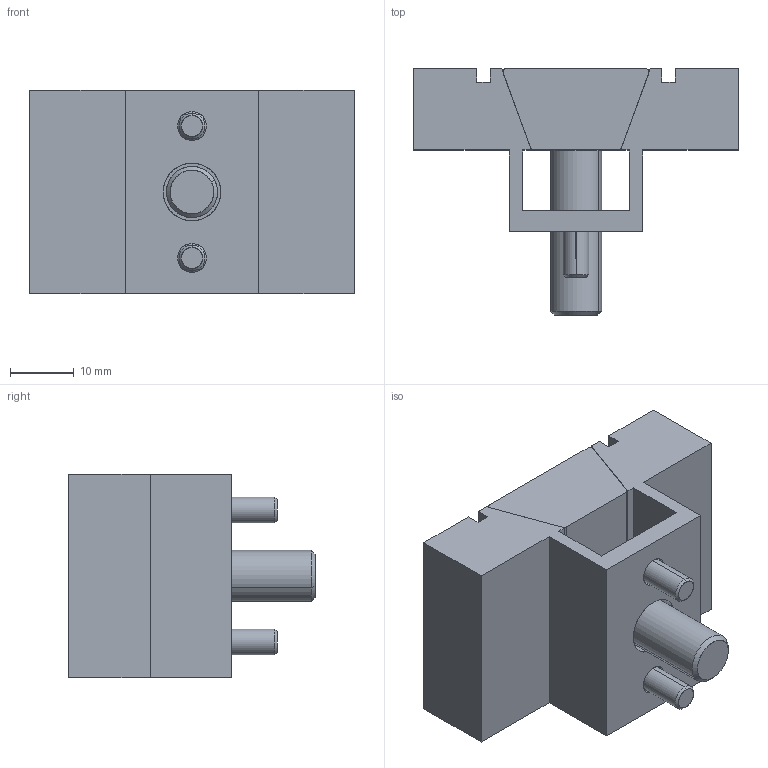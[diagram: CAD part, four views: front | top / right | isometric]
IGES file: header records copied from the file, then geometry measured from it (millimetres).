
Start section: SolidWorks IGES file using analytic representation for surfaces
Global section: file name: E:\Pending\12140_v2\12140_v2_20171107_IGES\Default.igs; native system: SolidWorks 2017; preprocessor: SolidWorks 2017; author: liam_; date: 171214.131337; units: millimetre
Bounding box: 50.8 x 38.5 x 31.8 mm (x, y, z)
Surface area: 12272.1 mm2 (no closed solid volume)
Topology: 0 solids, 0 shells, 114 faces, 1150 edges, 1146 vertices
Faces by surface type: bspline 73, revolution 41
